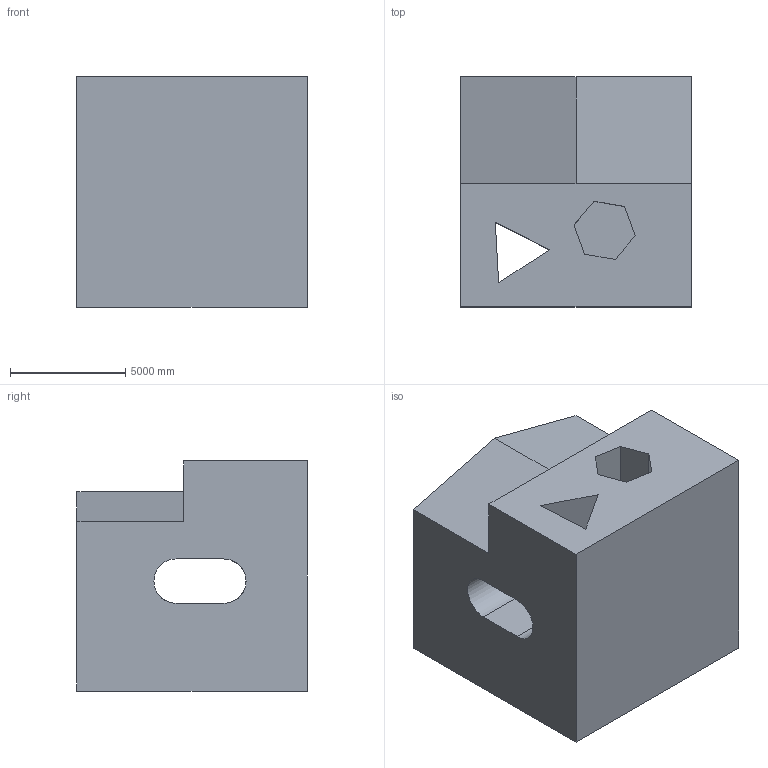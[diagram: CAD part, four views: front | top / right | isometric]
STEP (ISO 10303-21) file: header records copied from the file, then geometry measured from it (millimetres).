
FILE_DESCRIPTION (( 'STEP AP203' ), '1' );
FILE_NAME ('439.STEP', '2022-07-29T11:17:15', ( 'user' ), ( '' ), 'SwSTEP 2.0', 'SolidWorks 2021', '' );
FILE_SCHEMA (( 'CONFIG_CONTROL_DESIGN' ));
Length unit declared in the file: centimetre
Products named in the file (1): 439
Bounding box: 10000 x 10000 x 10000 mm (x, y, z)
Volume: 768648595852.9 mm3; surface area: 815755617.4 mm2
Topology: 1 solids, 1 shells, 29 faces, 87 edges, 58 vertices
Faces by surface type: plane 26, cylinder 3
Entity records: 1058 total; most frequent: CARTESIAN_POINT 193, ORIENTED_EDGE 174, DIRECTION 145, EDGE_CURVE 87, LINE 77, VECTOR 77, VERTEX_POINT 58, EDGE_LOOP 35
